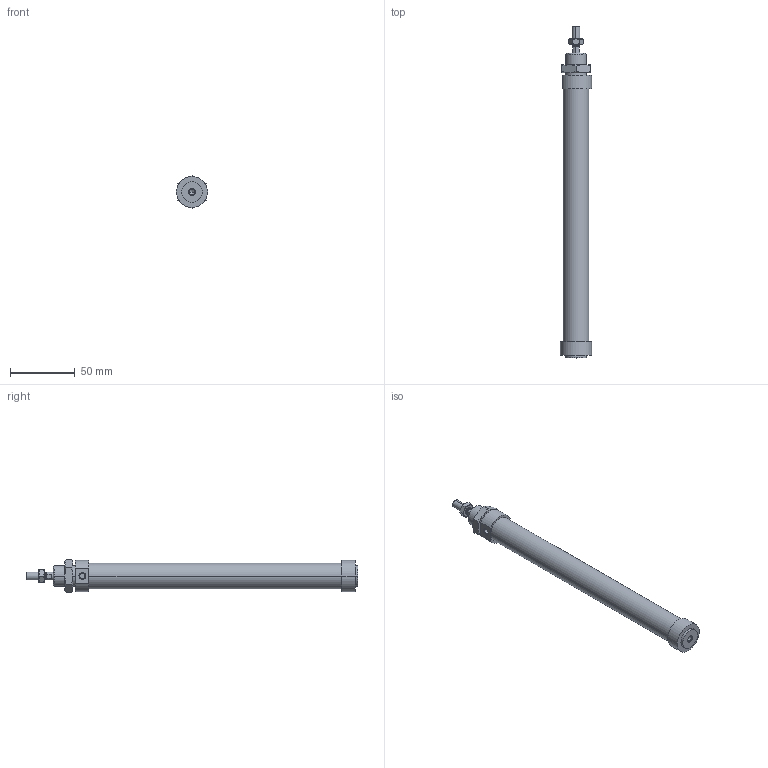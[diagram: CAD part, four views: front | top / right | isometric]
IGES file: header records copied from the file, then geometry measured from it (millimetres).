
Global section: file name: No Iges File Name specified; native system: AutoDesk Inventor R6.0; preprocessor: AutoDesk Inventor Iges Exporter R6.0; author: No Author specified; organization: No Organization specified; date: 20030402.184217; units: millimetre
Bounding box: 24 x 256 x 25.4 mm (x, y, z)
Volume: 76560.7 mm3; surface area: 25046.7 mm2
Topology: 4 solids, 4 shells, 108 faces, 229 edges, 135 vertices
Faces by surface type: cone 34, plane 33, bspline 21, cylinder 16, revolution 4
